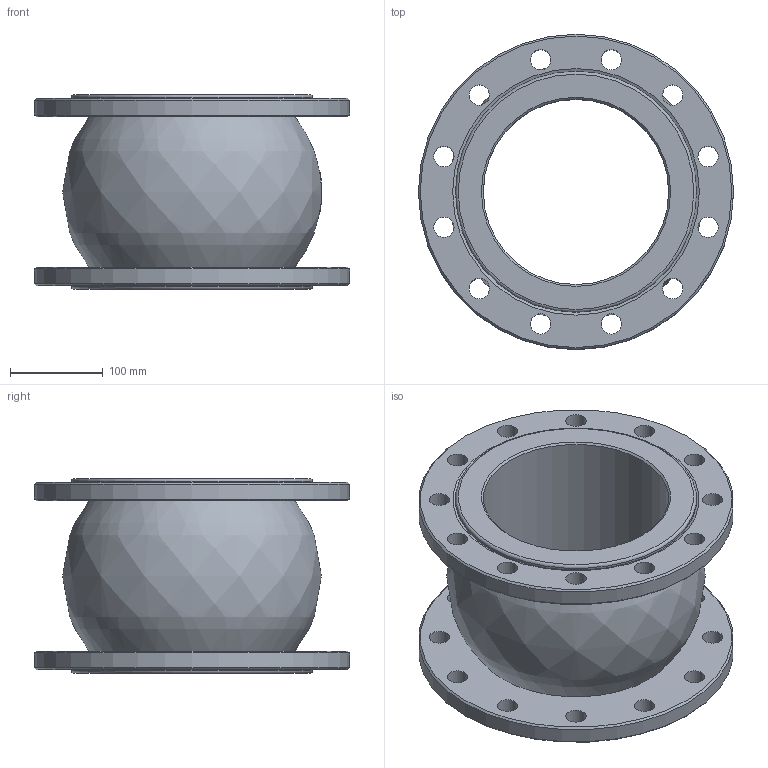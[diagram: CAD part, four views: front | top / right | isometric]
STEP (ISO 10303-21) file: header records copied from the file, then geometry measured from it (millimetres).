
FILE_DESCRIPTION(/* description */ ('D140-02400','CAx-IF Rec.Pracs.---Representation and Presentation of Product Manufacturing Information (PMI)---4.0---2014-10-13'),/* implementation_level */ '2;1');
FILE_NAME(/* name */ '',/* time_stamp */ '2026-03-10T22:39:22+03:00',/* author */ ('DN.RU'),/* organization */ ('DN.RU'),/* preprocessor_version */ 'ST-DEVELOPER v20',/* originating_system */ 'Autodesk Inventor 2025',/* authorisation */ '');
FILE_SCHEMA (('AP242_MANAGED_MODEL_BASED_3D_ENGINEERING_MIM_LF { 1 0 10303 442 1 1 4 }'));
Length unit declared in the file: millimetre
Products named in the file (1): CR-N25-F
Bounding box: 340 x 340 x 210 mm (x, y, z)
Volume: 5966088.4 mm3; surface area: 556588.6 mm2
Topology: 1 solids, 1 shells, 115 faces, 316 edges, 210 vertices
Faces by surface type: plane 43, bspline 34, cylinder 29, cone 7, torus 2
Full cylindrical faces by diameter (mm): 22 x24, 200 x1, 260 x2, 340 x2
Entity records: 4985 total; most frequent: CARTESIAN_POINT 1692, ORIENTED_EDGE 632, DIRECTION 628, EDGE_CURVE 316, AXIS2_PLACEMENT_3D 266, VERTEX_POINT 210, EDGE_LOOP 172, CIRCLE 171
